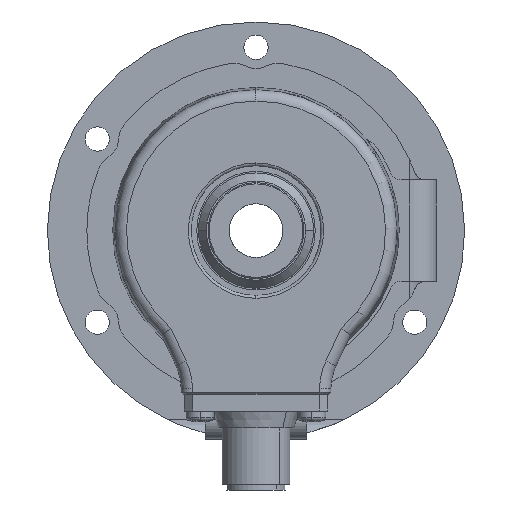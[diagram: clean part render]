
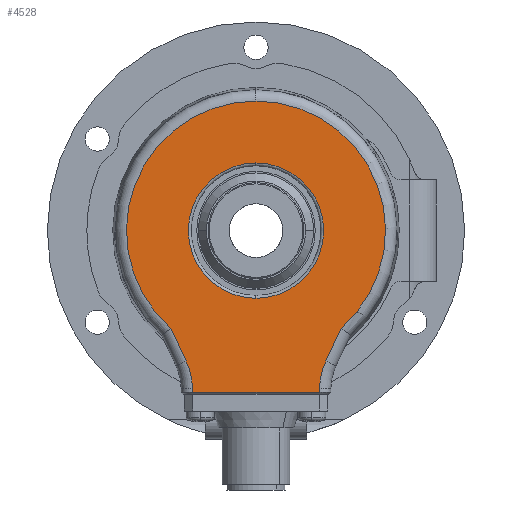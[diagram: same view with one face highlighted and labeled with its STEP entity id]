
A CAD part, left-side view. The second image highlights one B-rep face of the part: STEP entity #4528.
In plain terms, the highlighted planar face has unit normal (-1, 0, 0).
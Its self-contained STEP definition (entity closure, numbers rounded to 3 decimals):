
#81 = CARTESIAN_POINT ( 'NONE',  ( 23.456, 17.727, 21.499 ) ) ;
#442 = VERTEX_POINT ( 'NONE', #23819 ) ;
#660 = DIRECTION ( 'NONE',  ( 0., 0., 1. ) ) ;
#683 = EDGE_CURVE ( 'NONE', #23987, #11947, #17662, .T. ) ;
#870 = VERTEX_POINT ( 'NONE', #3702 ) ;
#1196 = VECTOR ( 'NONE', #3766, 1000. ) ;
#1419 = VECTOR ( 'NONE', #3316, 1000. ) ;
#1852 = LINE ( 'NONE', #5745, #1196 ) ;
#2249 = CARTESIAN_POINT ( 'NONE',  ( 23.456, 41.384, 26.361 ) ) ;
#2532 = DIRECTION ( 'NONE',  ( 1., 0., 0. ) ) ;
#2837 = ORIENTED_EDGE ( 'NONE', *, *, #14604, .T. ) ;
#3100 = CARTESIAN_POINT ( 'NONE',  ( 23.456, 17.745, 20.778 ) ) ;
#3265 = ORIENTED_EDGE ( 'NONE', *, *, #683, .T. ) ;
#3316 = DIRECTION ( 'NONE',  ( 0., -0.423, 0.906 ) ) ;
#3702 = CARTESIAN_POINT ( 'NONE',  ( 23.456, 28.994, 61.473 ) ) ;
#3766 = DIRECTION ( 'NONE',  ( 0., -0.017, 1. ) ) ;
#3828 = VERTEX_POINT ( 'NONE', #24487 ) ;
#4467 = CARTESIAN_POINT ( 'NONE',  ( 23.456, 28.994, 49.473 ) ) ;
#4528 = ADVANCED_FACE ( 'NONE', ( #5316, #15996 ), #12514, .F. ) ;
#4617 = DIRECTION ( 'NONE',  ( 0., -0.017, -1. ) ) ;
#4915 = EDGE_CURVE ( 'NONE', #11947, #18315, #1852, .T. ) ;
#4982 = VERTEX_POINT ( 'NONE', #9875 ) ;
#5060 = VERTEX_POINT ( 'NONE', #18721 ) ;
#5316 = FACE_BOUND ( 'NONE', #23524, .T. ) ;
#5745 = CARTESIAN_POINT ( 'NONE',  ( 23.456, 17.242, 49.268 ) ) ;
#6175 = EDGE_CURVE ( 'NONE', #25839, #25065, #9287, .T. ) ;
#6217 = DIRECTION ( 'NONE',  ( 1., 0., 0. ) ) ;
#6311 = CARTESIAN_POINT ( 'NONE',  ( 23.456, 28.994, 49.473 ) ) ;
#6460 = DIRECTION ( 'NONE',  ( 0., 0., 1. ) ) ;
#6622 = CARTESIAN_POINT ( 'NONE',  ( 23.456, 40.747, 49.268 ) ) ;
#6725 = CARTESIAN_POINT ( 'NONE',  ( 23.456, 41.384, 26.361 ) ) ;
#6915 = ORIENTED_EDGE ( 'NONE', *, *, #7789, .T. ) ;
#7014 = CARTESIAN_POINT ( 'NONE',  ( 23.456, 52.26, 21.29 ) ) ;
#7112 = EDGE_LOOP ( 'NONE', ( #24742, #3265, #18953, #6915, #10587, #13086, #2837, #24908, #20796 ) ) ;
#7789 = EDGE_CURVE ( 'NONE', #18315, #3828, #19980, .T. ) ;
#8225 = CARTESIAN_POINT ( 'NONE',  ( 23.456, 28.994, 72.445 ) ) ;
#8315 = DIRECTION ( 'NONE',  ( 0., 0., 1. ) ) ;
#8501 = EDGE_CURVE ( 'NONE', #3828, #5060, #22149, .T. ) ;
#9043 = DIRECTION ( 'NONE',  ( 0., 0., 1. ) ) ;
#9055 = EDGE_CURVE ( 'NONE', #25065, #442, #21489, .T. ) ;
#9287 = LINE ( 'NONE', #2249, #19334 ) ;
#9387 = VERTEX_POINT ( 'NONE', #8225 ) ;
#9875 = CARTESIAN_POINT ( 'NONE',  ( 23.456, 28.994, 37.473 ) ) ;
#10363 = ORIENTED_EDGE ( 'NONE', *, *, #15608, .T. ) ;
#10499 = CARTESIAN_POINT ( 'NONE',  ( 23.456, 28.994, 49.473 ) ) ;
#10587 = ORIENTED_EDGE ( 'NONE', *, *, #8501, .T. ) ;
#10749 = EDGE_CURVE ( 'NONE', #870, #4982, #25386, .T. ) ;
#11278 = CARTESIAN_POINT ( 'NONE',  ( 23.456, 14.041, 31.858 ) ) ;
#11459 = AXIS2_PLACEMENT_3D ( 'NONE', #24706, #12649, #660 ) ;
#11513 = CARTESIAN_POINT ( 'NONE',  ( 23.456, 44.085, 32.153 ) ) ;
#11715 = DIRECTION ( 'NONE',  ( 1., 0., 0. ) ) ;
#11947 = VERTEX_POINT ( 'NONE', #15942 ) ;
#12298 = VECTOR ( 'NONE', #15098, 1000. ) ;
#12514 = PLANE ( 'NONE',  #17181 ) ;
#12636 = CIRCLE ( 'NONE', #22119, 12. ) ;
#12649 = DIRECTION ( 'NONE',  ( -1., 0., 0. ) ) ;
#12725 = EDGE_CURVE ( 'NONE', #5060, #9387, #18378, .T. ) ;
#13086 = ORIENTED_EDGE ( 'NONE', *, *, #12725, .T. ) ;
#13689 = ORIENTED_EDGE ( 'NONE', *, *, #10749, .T. ) ;
#14352 = DIRECTION ( 'NONE',  ( 0., -0.423, -0.906 ) ) ;
#14604 = EDGE_CURVE ( 'NONE', #9387, #25839, #25590, .T. ) ;
#15098 = DIRECTION ( 'NONE',  ( 0., -1., 0. ) ) ;
#15355 = VECTOR ( 'NONE', #4617, 1000. ) ;
#15608 = EDGE_CURVE ( 'NONE', #4982, #870, #12636, .T. ) ;
#15938 = AXIS2_PLACEMENT_3D ( 'NONE', #7014, #21065, #9043 ) ;
#15942 = CARTESIAN_POINT ( 'NONE',  ( 23.456, 17.739, 20.778 ) ) ;
#15996 = FACE_OUTER_BOUND ( 'NONE', #7112, .T. ) ;
#16070 = AXIS2_PLACEMENT_3D ( 'NONE', #6311, #20370, #8315 ) ;
#16589 = DIRECTION ( 'NONE',  ( 0., 0., 1. ) ) ;
#16822 = AXIS2_PLACEMENT_3D ( 'NONE', #4467, #18494, #6460 ) ;
#17181 = AXIS2_PLACEMENT_3D ( 'NONE', #10499, #2532, #16589 ) ;
#17662 = LINE ( 'NONE', #3100, #12298 ) ;
#18232 = CARTESIAN_POINT ( 'NONE',  ( 23.456, 5.728, 21.29 ) ) ;
#18315 = VERTEX_POINT ( 'NONE', #81 ) ;
#18378 = CIRCLE ( 'NONE', #11459, 22.972 ) ;
#18494 = DIRECTION ( 'NONE',  ( 1., 0., 0. ) ) ;
#18668 = CARTESIAN_POINT ( 'NONE',  ( 23.456, 40.249, 20.778 ) ) ;
#18721 = CARTESIAN_POINT ( 'NONE',  ( 23.456, 13.903, 32.153 ) ) ;
#18830 = EDGE_CURVE ( 'NONE', #442, #23987, #26024, .T. ) ;
#18953 = ORIENTED_EDGE ( 'NONE', *, *, #4915, .T. ) ;
#19334 = VECTOR ( 'NONE', #14352, 1000. ) ;
#19980 = CIRCLE ( 'NONE', #22781, 12. ) ;
#20259 = DIRECTION ( 'NONE',  ( 0., 0., 1. ) ) ;
#20370 = DIRECTION ( 'NONE',  ( -1., 0., 0. ) ) ;
#20796 = ORIENTED_EDGE ( 'NONE', *, *, #9055, .T. ) ;
#21065 = DIRECTION ( 'NONE',  ( 1., 0., 0. ) ) ;
#21489 = CIRCLE ( 'NONE', #15938, 12. ) ;
#22119 = AXIS2_PLACEMENT_3D ( 'NONE', #23767, #11715, #25788 ) ;
#22149 = LINE ( 'NONE', #11278, #1419 ) ;
#22781 = AXIS2_PLACEMENT_3D ( 'NONE', #18232, #6217, #20259 ) ;
#23524 = EDGE_LOOP ( 'NONE', ( #13689, #10363 ) ) ;
#23767 = CARTESIAN_POINT ( 'NONE',  ( 23.456, 28.994, 49.473 ) ) ;
#23819 = CARTESIAN_POINT ( 'NONE',  ( 23.456, 40.262, 21.499 ) ) ;
#23987 = VERTEX_POINT ( 'NONE', #18668 ) ;
#24487 = CARTESIAN_POINT ( 'NONE',  ( 23.456, 16.604, 26.361 ) ) ;
#24706 = CARTESIAN_POINT ( 'NONE',  ( 23.456, 28.994, 49.473 ) ) ;
#24742 = ORIENTED_EDGE ( 'NONE', *, *, #18830, .T. ) ;
#24908 = ORIENTED_EDGE ( 'NONE', *, *, #6175, .T. ) ;
#25065 = VERTEX_POINT ( 'NONE', #6725 ) ;
#25386 = CIRCLE ( 'NONE', #16822, 12. ) ;
#25590 = CIRCLE ( 'NONE', #16070, 22.972 ) ;
#25788 = DIRECTION ( 'NONE',  ( 0., 0., 1. ) ) ;
#25839 = VERTEX_POINT ( 'NONE', #11513 ) ;
#26024 = LINE ( 'NONE', #6622, #15355 ) ;
